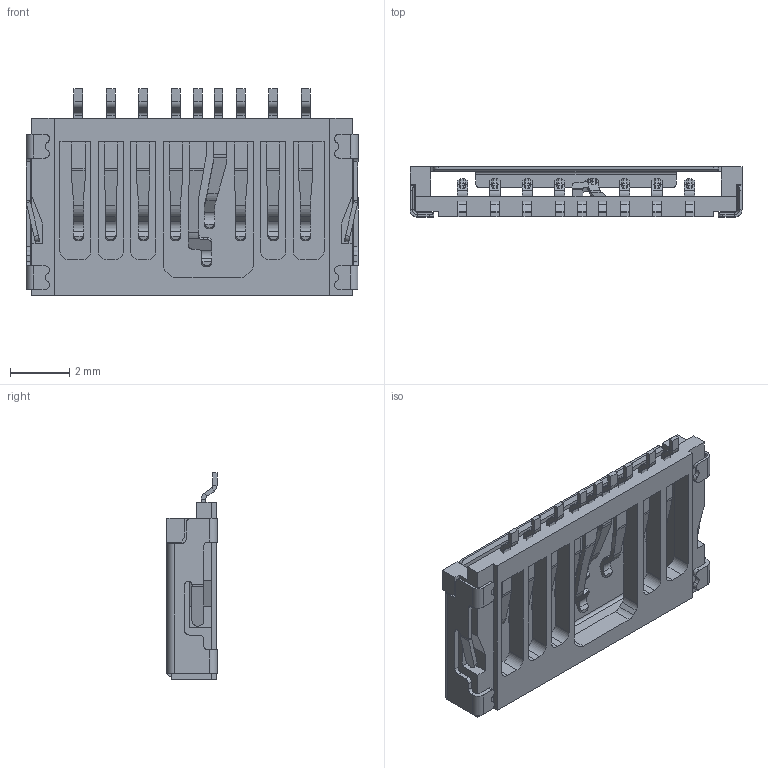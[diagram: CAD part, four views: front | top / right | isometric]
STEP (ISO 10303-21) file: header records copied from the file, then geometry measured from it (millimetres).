
FILE_DESCRIPTION((''),'2;1');
FILE_NAME('3D-_1_7H_ASM','2022-10-31T',('Administrator'),(''),'PRO/ENGINEER BY PARAMETRIC TECHNOLOGY CORPORATION, 2009440','PRO/ENGINEER BY PARAMETRIC TECHNOLOGY CORPORATION, 2009440','');
FILE_SCHEMA(('CONFIG_CONTROL_DESIGN'));
Length unit declared in the file: millimetre
Products named in the file (6): PRT0013; PRT0014; PRT0015; PRT0016; PRT0017; 3D-_1_7H_ASM
Assembly tree (11 placements, depth 2):
  3D-_1_7H_ASM
    PRT0013
    PRT0014
    PRT0015  x7
    PRT0016
    PRT0017
Bounding box: 11.25 x 1.7 x 7 mm (x, y, z)
Volume: 37.8 mm3; surface area: 360.8 mm2
Topology: 9 solids, 11 shells, 904 faces, 2144 edges, 1252 vertices
Faces by surface type: plane 584, cylinder 287, torus 20, bspline 11, cone 2
Entity records: 14502 total; most frequent: CARTESIAN_POINT 3187, ORIENTED_EDGE 2330, DIRECTION 2320, EDGE_CURVE 1174, VECTOR 820, LINE 820, AXIS2_PLACEMENT_3D 750, VERTEX_POINT 712
